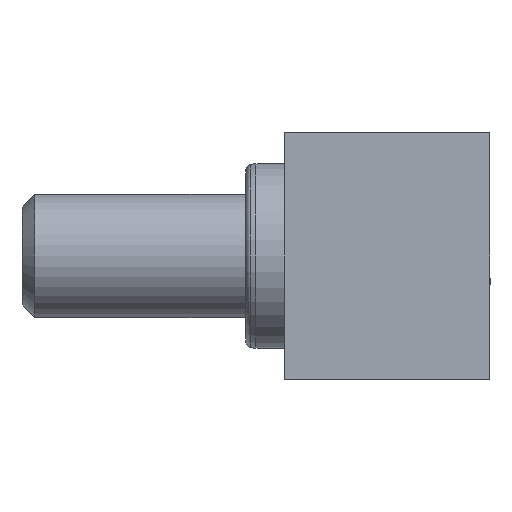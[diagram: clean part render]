
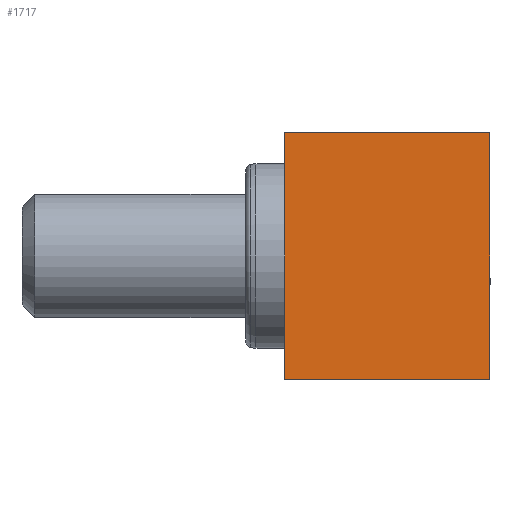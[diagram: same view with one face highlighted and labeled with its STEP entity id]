
A CAD part, front view. The second image highlights one B-rep face of the part: STEP entity #1717.
In plain terms, the highlighted planar face has unit normal (0, -1, 0).
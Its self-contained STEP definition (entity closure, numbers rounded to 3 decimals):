
#1661=CARTESIAN_POINT('',(-10.0,0.0,12.));
#1662=VERTEX_POINT('',#1661);
#1669=CARTESIAN_POINT('',(0.0,0.0,12.));
#1670=VERTEX_POINT('',#1669);
#1671=CARTESIAN_POINT('',(0.0,0.0,12.));
#1672=DIRECTION('',(-1.0,0.0,0.0));
#1673=VECTOR('',#1672,10.0);
#1674=LINE('',#1671,#1673);
#1675=EDGE_CURVE('',#1670,#1662,#1674,.T.);
#1687=CARTESIAN_POINT('',(0.0,0.0,12.));
#1688=DIRECTION('',(0.0,-1.0,0.0));
#1689=DIRECTION('',(0.0,0.0,-1.0));
#1690=AXIS2_PLACEMENT_3D('',#1687,#1688,#1689);
#1691=PLANE('',#1690);
#1692=CARTESIAN_POINT('',(-10.0,0.0,0.0));
#1693=VERTEX_POINT('',#1692);
#1694=CARTESIAN_POINT('',(-10.0,0.0,12.));
#1695=DIRECTION('',(0.0,0.0,-1.0));
#1696=VECTOR('',#1695,12.);
#1697=LINE('',#1694,#1696);
#1698=EDGE_CURVE('',#1662,#1693,#1697,.T.);
#1699=ORIENTED_EDGE('',*,*,#1698,.T.);
#1700=CARTESIAN_POINT('',(0.0,0.0,0.0));
#1701=VERTEX_POINT('',#1700);
#1702=CARTESIAN_POINT('',(0.0,0.0,0.0));
#1703=DIRECTION('',(-1.0,0.0,0.0));
#1704=VECTOR('',#1703,10.0);
#1705=LINE('',#1702,#1704);
#1706=EDGE_CURVE('',#1701,#1693,#1705,.T.);
#1707=ORIENTED_EDGE('',*,*,#1706,.F.);
#1708=CARTESIAN_POINT('',(0.0,0.0,12.));
#1709=DIRECTION('',(0.0,0.0,-1.0));
#1710=VECTOR('',#1709,12.);
#1711=LINE('',#1708,#1710);
#1712=EDGE_CURVE('',#1670,#1701,#1711,.T.);
#1713=ORIENTED_EDGE('',*,*,#1712,.F.);
#1714=ORIENTED_EDGE('',*,*,#1675,.T.);
#1715=EDGE_LOOP('',(#1699,#1707,#1713,#1714));
#1716=FACE_OUTER_BOUND('',#1715,.T.);
#1717=ADVANCED_FACE('',(#1716),#1691,.T.);
